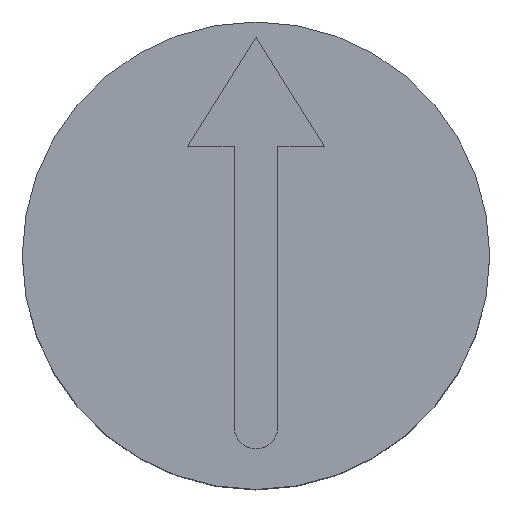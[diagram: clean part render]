
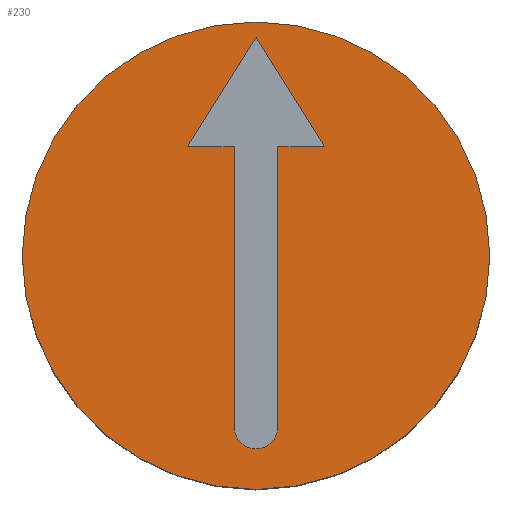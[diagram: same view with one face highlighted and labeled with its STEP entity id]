
A CAD part, top view. The second image highlights one B-rep face of the part: STEP entity #230.
In plain terms, the highlighted planar face has unit normal (0, 0, 1).
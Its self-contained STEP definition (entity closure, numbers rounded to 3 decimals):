
#15=FACE_BOUND('',#55,.T.);
#18=CIRCLE('',#253,0.07);
#23=CIRCLE('',#263,0.75);
#40=FACE_OUTER_BOUND('',#54,.T.);
#54=EDGE_LOOP('',(#198));
#55=EDGE_LOOP('',(#199,#200,#201,#202,#203,#204,#205));
#58=LINE('',#337,#80);
#62=LINE('',#345,#84);
#65=LINE('',#351,#87);
#68=LINE('',#357,#90);
#71=LINE('',#363,#93);
#74=LINE('',#369,#96);
#80=VECTOR('',#271,10.);
#84=VECTOR('',#277,10.);
#87=VECTOR('',#282,10.);
#90=VECTOR('',#287,10.);
#93=VECTOR('',#292,10.);
#96=VECTOR('',#297,10.);
#102=VERTEX_POINT('',#335);
#103=VERTEX_POINT('',#336);
#106=VERTEX_POINT('',#344);
#108=VERTEX_POINT('',#350);
#110=VERTEX_POINT('',#356);
#112=VERTEX_POINT('',#362);
#114=VERTEX_POINT('',#368);
#119=VERTEX_POINT('',#389);
#121=EDGE_CURVE('',#102,#103,#58,.T.);
#125=EDGE_CURVE('',#106,#102,#62,.T.);
#128=EDGE_CURVE('',#108,#106,#65,.T.);
#131=EDGE_CURVE('',#110,#108,#68,.T.);
#134=EDGE_CURVE('',#112,#110,#71,.T.);
#137=EDGE_CURVE('',#114,#112,#74,.T.);
#140=EDGE_CURVE('',#103,#114,#18,.T.);
#147=EDGE_CURVE('',#119,#119,#23,.T.);
#198=ORIENTED_EDGE('',*,*,#147,.T.);
#199=ORIENTED_EDGE('',*,*,#121,.T.);
#200=ORIENTED_EDGE('',*,*,#140,.T.);
#201=ORIENTED_EDGE('',*,*,#137,.T.);
#202=ORIENTED_EDGE('',*,*,#134,.T.);
#203=ORIENTED_EDGE('',*,*,#131,.T.);
#204=ORIENTED_EDGE('',*,*,#128,.T.);
#205=ORIENTED_EDGE('',*,*,#125,.T.);
#216=PLANE('',#265);
#230=ADVANCED_FACE('',(#40,#15),#216,.T.);
#253=AXIS2_PLACEMENT_3D('',#374,#302,#303);
#263=AXIS2_PLACEMENT_3D('',#390,#324,#325);
#265=AXIS2_PLACEMENT_3D('',#394,#329,#330);
#271=DIRECTION('',(0.,-1.,0.));
#277=DIRECTION('',(-1.,0.,0.));
#282=DIRECTION('',(0.532,-0.847,0.));
#287=DIRECTION('',(0.532,0.847,0.));
#292=DIRECTION('',(-1.,0.,0.));
#297=DIRECTION('',(0.,1.,0.));
#302=DIRECTION('center_axis',(0.,0.,-1.));
#303=DIRECTION('ref_axis',(-1.,0.,0.));
#324=DIRECTION('center_axis',(0.,0.,1.));
#325=DIRECTION('ref_axis',(1.,0.,0.));
#329=DIRECTION('center_axis',(0.,0.,1.));
#330=DIRECTION('ref_axis',(1.,0.,0.));
#335=CARTESIAN_POINT('',(0.07,0.35,0.95));
#336=CARTESIAN_POINT('',(0.07,-0.55,0.95));
#337=CARTESIAN_POINT('',(0.07,0.175,0.95));
#344=CARTESIAN_POINT('',(0.22,0.35,0.95));
#345=CARTESIAN_POINT('',(0.11,0.35,0.95));
#350=CARTESIAN_POINT('',(0.,0.7,0.95));
#351=CARTESIAN_POINT('',(0.158,0.449,0.95));
#356=CARTESIAN_POINT('',(-0.22,0.35,0.95));
#357=CARTESIAN_POINT('',(-0.268,0.274,0.95));
#362=CARTESIAN_POINT('',(-0.07,0.35,0.95));
#363=CARTESIAN_POINT('',(-0.035,0.35,0.95));
#368=CARTESIAN_POINT('',(-0.07,-0.55,0.95));
#369=CARTESIAN_POINT('',(-0.07,-0.275,0.95));
#374=CARTESIAN_POINT('Origin',(0.,-0.55,0.95));
#389=CARTESIAN_POINT('',(-0.75,0.,0.95));
#390=CARTESIAN_POINT('Origin',(0.,0.,0.95));
#394=CARTESIAN_POINT('Origin',(0.,0.,0.95));
